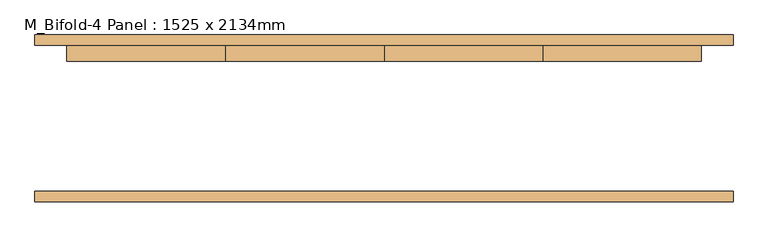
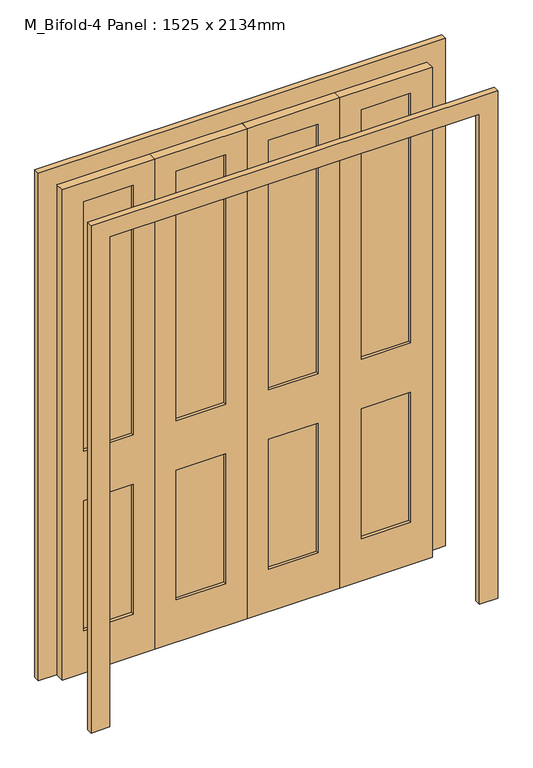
"""IFC4 building model written with IfcOpenShell, lengths in millimetres: door geometry, M_Bifold-4 Panel : 1525 x 2134mm."""

from ifc_helpers import new_model, si_unit, frame, origin, place, context, project, spatial, polyline, outline, extrude, source, transform, mapped, element, save


def m_bifold_4_panel_1525_x_2134mm_1ddae71f(model_context):
    return source(origin(), model_context, "Body", "SweptSolid", [
        extrude(outline(polyline([(470.15, 162.3), (673.6, 162.3), (673.6, 149.6), (470.15, 149.6), (470.15, 162.3)])), frame((0.0, 0.0, 965.2), z_axis=(0.0, 0.0, 1.0), x_axis=(1.0, 0.0, 0.0)), (0.0, 0.0, 1.0), 1086.25),
        extrude(outline(polyline([(470.15, 162.3), (673.6, 162.3), (673.6, 149.6), (470.15, 149.6), (470.15, 162.3)])), frame((0.0, 0.0, 184.15), z_axis=(0.0, 0.0, 1.0), x_axis=(1.0, 0.0, 0.0)), (0.0, 0.0, 1.0), 565.15),
        extrude(outline(polyline([(88.9, 162.3), (292.35, 162.3), (292.35, 149.6), (88.9, 149.6), (88.9, 162.3)])), frame((0.0, 0.0, 965.2), z_axis=(0.0, 0.0, 1.0), x_axis=(1.0, 0.0, 0.0)), (0.0, 0.0, 1.0), 1086.25),
        extrude(outline(polyline([(88.9, 162.3), (292.35, 162.3), (292.35, 149.6), (88.9, 149.6), (88.9, 162.3)])), frame((0.0, 0.0, 184.15), z_axis=(0.0, 0.0, 1.0), x_axis=(1.0, 0.0, 0.0)), (0.0, 0.0, 1.0), 565.15),
        extrude(outline(polyline([(-292.35, 162.3), (-88.9, 162.3), (-88.9, 149.6), (-292.35, 149.6), (-292.35, 162.3)])), frame((0.0, 0.0, 184.15), z_axis=(0.0, 0.0, 1.0), x_axis=(1.0, 0.0, 0.0)), (0.0, 0.0, 1.0), 565.15),
        extrude(outline(polyline([(-292.35, 162.3), (-88.9, 162.3), (-88.9, 149.6), (-292.35, 149.6), (-292.35, 162.3)])), frame((0.0, 0.0, 965.2), z_axis=(0.0, 0.0, 1.0), x_axis=(1.0, 0.0, 0.0)), (0.0, 0.0, 1.0), 1086.25),
        extrude(outline(polyline([(-673.6, 162.3), (-470.15, 162.3), (-470.15, 149.6), (-673.6, 149.6), (-673.6, 162.3)])), frame((0.0, 0.0, 965.2), z_axis=(0.0, 0.0, 1.0), x_axis=(1.0, 0.0, 0.0)), (0.0, 0.0, 1.0), 1086.25),
        extrude(outline(polyline([(-673.6, 162.3), (-470.15, 162.3), (-470.15, 149.6), (-673.6, 149.6), (-673.6, 162.3)])), frame((0.0, 0.0, 184.15), z_axis=(0.0, 0.0, 1.0), x_axis=(1.0, 0.0, 0.0)), (0.0, 0.0, 1.0), 565.15),
        extrude(outline(polyline([(0.0, 838.5), (2210.0, 838.5), (2210.0, -838.5), (0.0, -838.5), (0.0, -762.5), (2134.0, -762.5), (2134.0, 762.5), (0.0, 762.5), (0.0, 838.5)])), frame((0.0, -200.4, 0.0), z_axis=(0.0, 1.0, 0.0), x_axis=(0.0, 0.0, 1.0)), (0.0, 0.0, 1.0), 25.4),
        extrude(outline(polyline([(0.0, 838.5), (2210.0, 838.5), (2210.0, -838.5), (0.0, -838.5), (0.0, -762.5), (2134.0, -762.5), (2134.0, 762.5), (0.0, 762.5), (0.0, 838.5)])), frame((0.0, 175.0, 0.0), z_axis=(0.0, 1.0, 0.0), x_axis=(0.0, 0.0, 1.0)), (0.0, 0.0, 1.0), 25.4),
        extrude(outline(polyline([(0.0, -762.5), (0.0, -381.25), (2134.0, -381.25), (2134.0, -762.5), (0.0, -762.5)]), holes=[polyline([(2051.45, -673.6), (2051.45, -470.15), (965.2, -470.15), (965.2, -673.6), (2051.45, -673.6)]), polyline([(749.3, -673.6), (749.3, -470.15), (184.15, -470.15), (184.15, -673.6), (749.3, -673.6)])]), frame((0.0, 136.9, 0.0), z_axis=(0.0, 1.0, 0.0), x_axis=(0.0, 0.0, 1.0)), (0.0, 0.0, 1.0), 38.1),
        extrude(outline(polyline([(0.0, -381.25), (0.0, 0.0), (2134.0, 0.0), (2134.0, -381.25), (0.0, -381.25)]), holes=[polyline([(2051.45, -292.35), (2051.45, -88.9), (965.2, -88.9), (965.2, -292.35), (2051.45, -292.35)]), polyline([(749.3, -292.35), (749.3, -88.9), (184.15, -88.9), (184.15, -292.35), (749.3, -292.35)])]), frame((0.0, 136.9, 0.0), z_axis=(0.0, 1.0, 0.0), x_axis=(0.0, 0.0, 1.0)), (0.0, 0.0, 1.0), 38.1),
        extrude(outline(polyline([(0.0, 0.0), (0.0, 381.25), (2134.0, 381.25), (2134.0, 0.0), (0.0, 0.0)]), holes=[polyline([(2051.45, 88.9), (2051.45, 292.35), (965.2, 292.35), (965.2, 88.9), (2051.45, 88.9)]), polyline([(749.3, 88.9), (749.3, 292.35), (184.15, 292.35), (184.15, 88.9), (749.3, 88.9)])]), frame((0.0, 136.9, 0.0), z_axis=(0.0, 1.0, 0.0), x_axis=(0.0, 0.0, 1.0)), (0.0, 0.0, 1.0), 38.1),
        extrude(outline(polyline([(0.0, 381.25), (0.0, 762.5), (2134.0, 762.5), (2134.0, 381.25), (0.0, 381.25)]), holes=[polyline([(2051.45, 470.15), (2051.45, 673.6), (965.2, 673.6), (965.2, 470.15), (2051.45, 470.15)]), polyline([(749.3, 470.15), (749.3, 673.6), (184.15, 673.6), (184.15, 470.15), (749.3, 470.15)])]), frame((0.0, 136.9, 0.0), z_axis=(0.0, 1.0, 0.0), x_axis=(0.0, 0.0, 1.0)), (0.0, 0.0, 1.0), 38.1),
    ])


if __name__ == "__main__":
    model = new_model("IFC4")
    model_context = context("Model", 3, world=origin())
    ifc_project = project(units=[si_unit("LENGTHUNIT", "METRE", prefix="MILLI")], contexts=[model_context])
    site = spatial("IfcSite", under=ifc_project)
    building = spatial("IfcBuilding", under=site)
    placement = place(None, origin())
    m_bifold_4_panel_1525_x_2134mm_shape = m_bifold_4_panel_1525_x_2134mm_1ddae71f(model_context)
    element("IfcDoor", 1, ObjectType="M_Bifold-4 Panel : 1525 x 2134mm", at=placement, inside=building, context=model_context, shape_type="MappedRepresentation", body=[
        mapped(m_bifold_4_panel_1525_x_2134mm_shape, transform((0.0, 0.0, 0.0), x_axis=(1.0, 0.0, 0.0), y_axis=(0.0, 1.0, 0.0), z_axis=(0.0, 0.0, 1.0))),
    ])
    save(model, "model.ifc")
